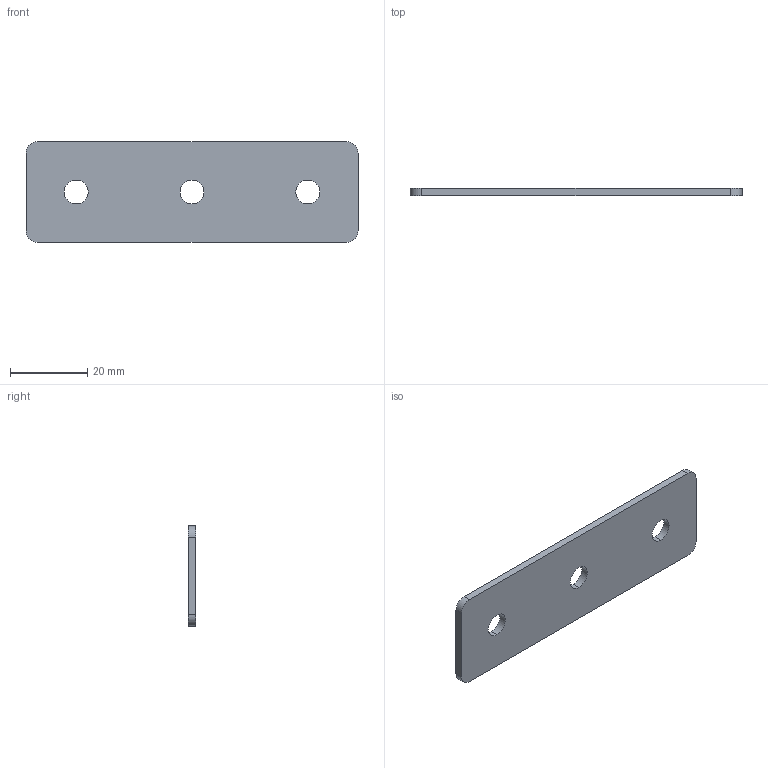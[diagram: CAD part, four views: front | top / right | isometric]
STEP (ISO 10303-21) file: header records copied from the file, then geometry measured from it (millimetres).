
FILE_DESCRIPTION (( 'STEP AP203' ), '1' );
FILE_NAME ('ﾏ-3-30.STEP', '2016-07-23T14:36:16', ( '' ), ( '' ), 'SwSTEP 2.0', 'SolidWorks 2014', '' );
FILE_SCHEMA (( 'CONFIG_CONTROL_DESIGN' ));
Length unit declared in the file: millimetre
Products named in the file (1): ﾏ-3-30
Bounding box: 86 x 2 x 26 mm (x, y, z)
Volume: 4275.6 mm3; surface area: 4830.2 mm2
Topology: 1 solids, 1 shells, 16 faces, 42 edges, 28 vertices
Faces by surface type: cylinder 10, plane 6
Entity records: 595 total; most frequent: DIRECTION 96, CARTESIAN_POINT 87, ORIENTED_EDGE 84, EDGE_CURVE 42, AXIS2_PLACEMENT_3D 37, VERTEX_POINT 28, LINE 22, VECTOR 22
